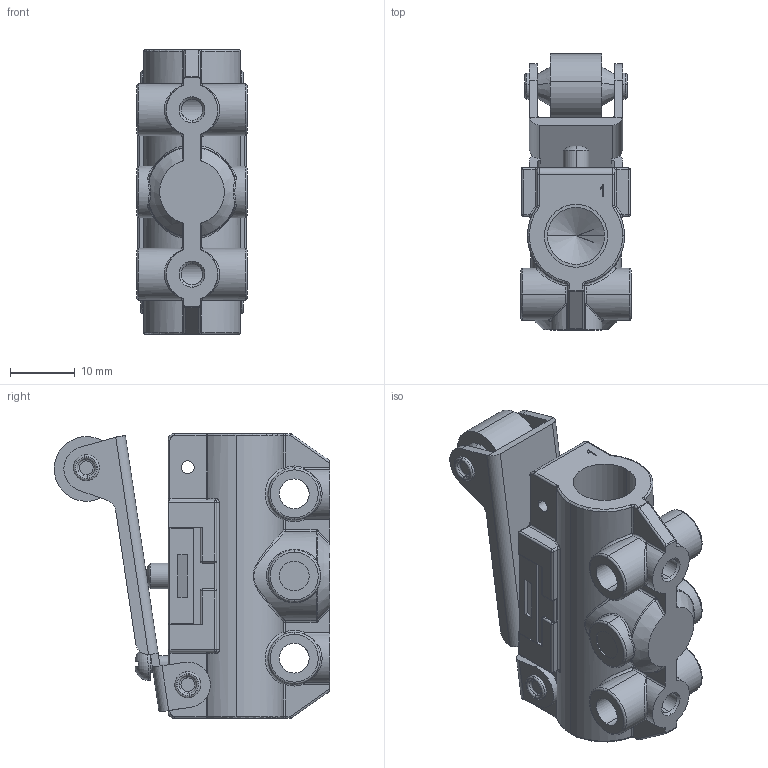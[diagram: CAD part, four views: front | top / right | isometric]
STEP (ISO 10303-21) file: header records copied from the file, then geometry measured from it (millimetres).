
FILE_DESCRIPTION (( 'STEP AP214' ), '1' );
FILE_NAME ('VM131-F01-01SA.step.step', '2023-02-16T07:35:38', ( '' ), ( '' ), 'SwSTEP 2.0', 'SolidWorks 2022', '' );
FILE_SCHEMA (( 'AUTOMOTIVE_DESIGN' ));
Length unit declared in the file: millimetre
Products named in the file (3): VM131-F01-01SA.step; VM131-F01-01SA.step_VM-01; VM131-F01-01SA.step_VM1_Side_Ported_1-F01
Assembly tree (2 placements, depth 2):
  VM131-F01-01SA.step
    VM131-F01-01SA.step_VM1_Side_Ported_1-F01
    VM131-F01-01SA.step_VM-01
Bounding box: 17 x 42.6 x 44 mm (x, y, z)
Volume: 13095.5 mm3; surface area: 8602.4 mm2
Topology: 2 solids, 2 shells, 493 faces, 1198 edges, 707 vertices
Faces by surface type: cylinder 187, plane 131, torus 78, bspline 40, sphere 35, cone 22
Entity records: 17661 total; most frequent: CARTESIAN_POINT 5899, DIRECTION 2458, ORIENTED_EDGE 2346, EDGE_CURVE 1173, AXIS2_PLACEMENT_3D 984, VERTEX_POINT 707, EDGE_LOOP 536, CIRCLE 526
